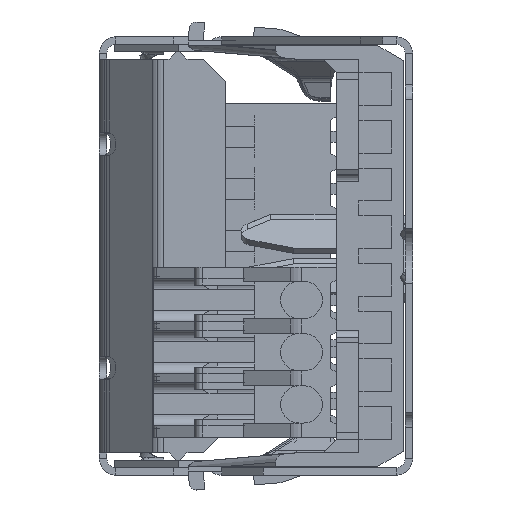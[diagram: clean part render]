
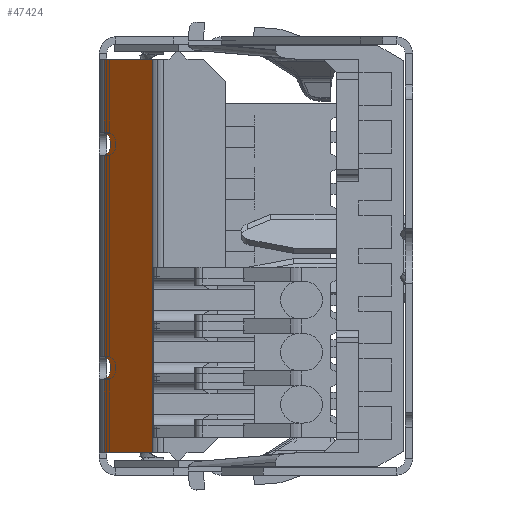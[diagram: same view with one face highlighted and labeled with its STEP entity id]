
A CAD part, left-side view. The second image highlights one B-rep face of the part: STEP entity #47424.
In plain terms, the highlighted planar face has unit normal (-0.707, 0.707, 0).
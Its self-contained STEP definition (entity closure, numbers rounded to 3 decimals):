
#47051 = VERTEX_POINT ( 'NONE', #66383 ) ;
#47111 = EDGE_CURVE ( 'NONE', #47115, #47051, #66436, .T. ) ;
#47115 = VERTEX_POINT ( 'NONE', #66432 ) ;
#47213 = VERTEX_POINT ( 'NONE', #66541 ) ;
#47223 = EDGE_CURVE ( 'NONE', #47226, #47213, #66581, .T. ) ;
#47226 = VERTEX_POINT ( 'NONE', #66576 ) ;
#47265 = ORIENTED_EDGE ( 'NONE', *, *, #47269, .F. ) ;
#47269 = EDGE_CURVE ( 'NONE', #47271, #47342, #66623, .T. ) ;
#47271 = VERTEX_POINT ( 'NONE', #66619 ) ;
#47274 = ORIENTED_EDGE ( 'NONE', *, *, #47346, .F. ) ;
#47281 = EDGE_LOOP ( 'NONE', ( #47274, #47349, #47337, #47265, #47364, #47413, #47417, #47494 ) ) ;
#47299 = VERTEX_POINT ( 'NONE', #66665 ) ;
#47303 = VERTEX_POINT ( 'NONE', #66660 ) ;
#47337 = ORIENTED_EDGE ( 'NONE', *, *, #47341, .T. ) ;
#47341 = EDGE_CURVE ( 'NONE', #47299, #47342, #66718, .T. ) ;
#47342 = VERTEX_POINT ( 'NONE', #66714 ) ;
#47346 = EDGE_CURVE ( 'NONE', #47303, #47115, #66708, .T. ) ;
#47349 = ORIENTED_EDGE ( 'NONE', *, *, #47374, .T. ) ;
#47364 = ORIENTED_EDGE ( 'NONE', *, *, #47409, .T. ) ;
#47374 = EDGE_CURVE ( 'NONE', #47303, #47299, #66724, .T. ) ;
#47384 = EDGE_CURVE ( 'NONE', #47213, #47051, #66758, .T. ) ;
#47409 = EDGE_CURVE ( 'NONE', #47271, #47226, #66779, .T. ) ;
#47413 = ORIENTED_EDGE ( 'NONE', *, *, #47223, .T. ) ;
#47417 = ORIENTED_EDGE ( 'NONE', *, *, #47384, .T. ) ;
#47424 = ADVANCED_FACE ( 'NONE', ( #66768 ), #66773, .T. ) ;
#47494 = ORIENTED_EDGE ( 'NONE', *, *, #47111, .F. ) ;
#66383 = CARTESIAN_POINT ( 'NONE',  ( -150.494, -0.322, -13.2 ) ) ;
#66432 = CARTESIAN_POINT ( 'NONE',  ( -153.699, -3.527, -13.2 ) ) ;
#66433 = DIRECTION ( 'NONE',  ( 0.707, 0.707, 0. ) ) ;
#66434 = VECTOR ( 'NONE', #66433, 1000. ) ;
#66435 = CARTESIAN_POINT ( 'NONE',  ( -154.43, -4.258, -13.2 ) ) ;
#66436 = LINE ( 'NONE', #66435, #66434 ) ;
#66541 = CARTESIAN_POINT ( 'NONE',  ( -150.494, -0.322, -8.238 ) ) ;
#66576 = CARTESIAN_POINT ( 'NONE',  ( -150.494, -0.322, -6.762 ) ) ;
#66577 = DIRECTION ( 'NONE',  ( 0., 0., -1. ) ) ;
#66578 = DIRECTION ( 'NONE',  ( 0.707, -0.707, 0. ) ) ;
#66579 = CARTESIAN_POINT ( 'NONE',  ( -150.399, -0.228, -7.5 ) ) ;
#66580 = AXIS2_PLACEMENT_3D ( 'NONE', #66579, #66578, #66577 ) ;
#66581 = CIRCLE ( 'NONE', #66580, 0.75 ) ;
#66588 = CARTESIAN_POINT ( 'NONE',  ( -150.399, -0.228, 7.5 ) ) ;
#66619 = CARTESIAN_POINT ( 'NONE',  ( -150.494, -0.322, 6.762 ) ) ;
#66620 = DIRECTION ( 'NONE',  ( 0., 0., 1. ) ) ;
#66621 = DIRECTION ( 'NONE',  ( -0.707, 0.707, 0. ) ) ;
#66622 = AXIS2_PLACEMENT_3D ( 'NONE', #66588, #66621, #66620 ) ;
#66623 = CIRCLE ( 'NONE', #66622, 0.75 ) ;
#66660 = CARTESIAN_POINT ( 'NONE',  ( -153.699, -3.527, 13.2 ) ) ;
#66665 = CARTESIAN_POINT ( 'NONE',  ( -150.494, -0.322, 13.2 ) ) ;
#66705 = DIRECTION ( 'NONE',  ( 0., 0., -1. ) ) ;
#66706 = VECTOR ( 'NONE', #66705, 1000. ) ;
#66707 = CARTESIAN_POINT ( 'NONE',  ( -153.699, -3.527, 14.7 ) ) ;
#66708 = LINE ( 'NONE', #66707, #66706 ) ;
#66714 = CARTESIAN_POINT ( 'NONE',  ( -150.494, -0.322, 8.238 ) ) ;
#66715 = DIRECTION ( 'NONE',  ( 0., 0., -1. ) ) ;
#66716 = VECTOR ( 'NONE', #66715, 1000. ) ;
#66717 = CARTESIAN_POINT ( 'NONE',  ( -150.494, -0.322, 14.7 ) ) ;
#66718 = LINE ( 'NONE', #66717, #66716 ) ;
#66721 = DIRECTION ( 'NONE',  ( 0.707, 0.707, 0. ) ) ;
#66722 = VECTOR ( 'NONE', #66721, 1000. ) ;
#66723 = CARTESIAN_POINT ( 'NONE',  ( -154.43, -4.258, 13.2 ) ) ;
#66724 = LINE ( 'NONE', #66723, #66722 ) ;
#66755 = DIRECTION ( 'NONE',  ( 0., 0., -1. ) ) ;
#66756 = VECTOR ( 'NONE', #66755, 1000. ) ;
#66757 = CARTESIAN_POINT ( 'NONE',  ( -150.494, -0.322, 14.7 ) ) ;
#66758 = LINE ( 'NONE', #66757, #66756 ) ;
#66764 = DIRECTION ( 'NONE',  ( 0., 0., 1. ) ) ;
#66765 = DIRECTION ( 'NONE',  ( -0.707, 0.707, 0. ) ) ;
#66766 = CARTESIAN_POINT ( 'NONE',  ( 61.591, 211.763, 14.7 ) ) ;
#66767 = AXIS2_PLACEMENT_3D ( 'NONE', #66766, #66765, #66764 ) ;
#66768 = FACE_OUTER_BOUND ( 'NONE', #47281, .T. ) ;
#66773 = PLANE ( 'NONE',  #66767 ) ;
#66776 = DIRECTION ( 'NONE',  ( 0., 0., -1. ) ) ;
#66777 = VECTOR ( 'NONE', #66776, 1000. ) ;
#66778 = CARTESIAN_POINT ( 'NONE',  ( -150.494, -0.322, 14.7 ) ) ;
#66779 = LINE ( 'NONE', #66778, #66777 ) ;
